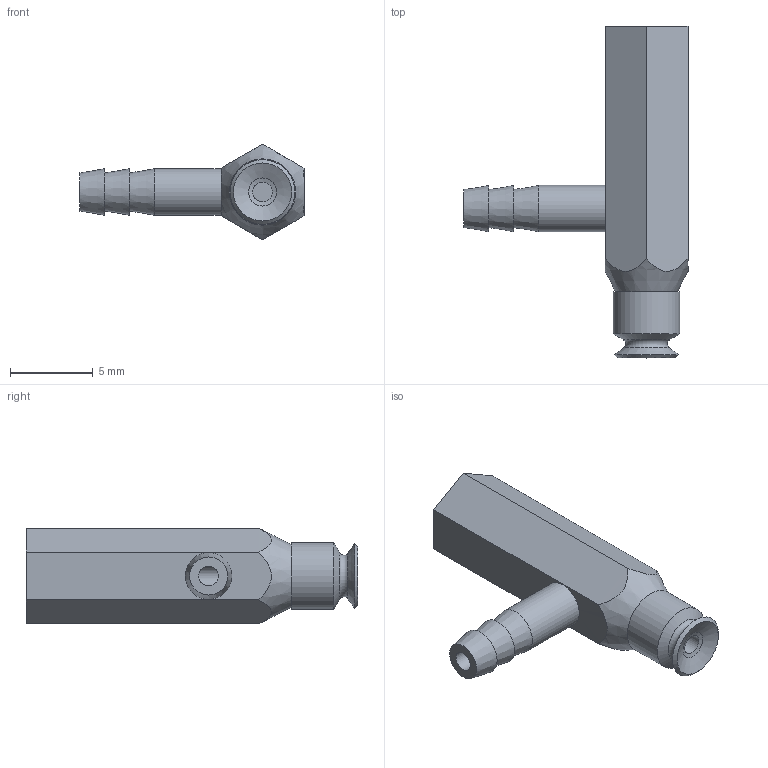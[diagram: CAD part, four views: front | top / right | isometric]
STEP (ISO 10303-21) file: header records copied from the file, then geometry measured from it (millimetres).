
FILE_DESCRIPTION(('STEP AP203'),'1');
FILE_NAME('.stp','2025-04-07T02:03:00',(' '),(' '),'Spatial InterOp 3D',' ',' ');
FILE_SCHEMA(('CONFIG_CONTROL_DESIGN'));
Length unit declared in the file: millimetre
Products named in the file (3): BBPFYK-3.5A-※; PFYK-1.5A; BPFG-3.5A-※
Assembly tree (2 placements, depth 2):
  BBPFYK-3.5A-※
    PFYK-1.5A
    BPFG-3.5A-※
Bounding box: 13.5 x 20 x 5.77 mm (x, y, z)
Volume: 379.9 mm3; surface area: 614.8 mm2
Topology: 2 solids, 2 shells, 47 faces, 96 edges, 59 vertices
Faces by surface type: plane 17, cylinder 11, cone 10, torus 8, bspline 1
Full cylindrical faces by diameter (mm): 1.2 x3, 2 x2, 2.459 x1, 2.8 x1, 3 x2, 4 x1
Entity records: 1253 total; most frequent: CARTESIAN_POINT 260, DIRECTION 190, ORIENTED_EDGE 118, AXIS2_PLACEMENT_3D 89, EDGE_LOOP 85, FACE_OUTER_BOUND 65, EDGE_CURVE 59, VERTEX_POINT 53
